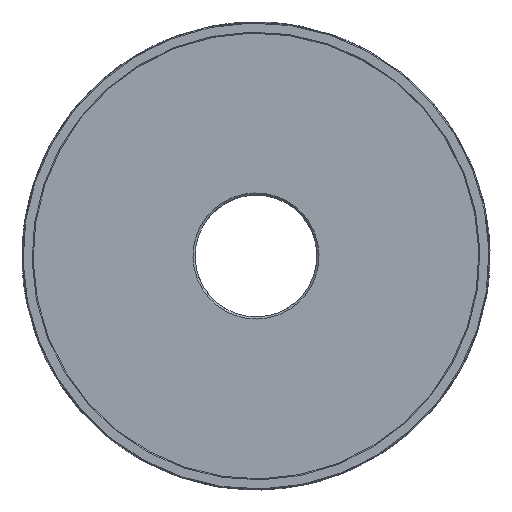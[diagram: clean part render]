
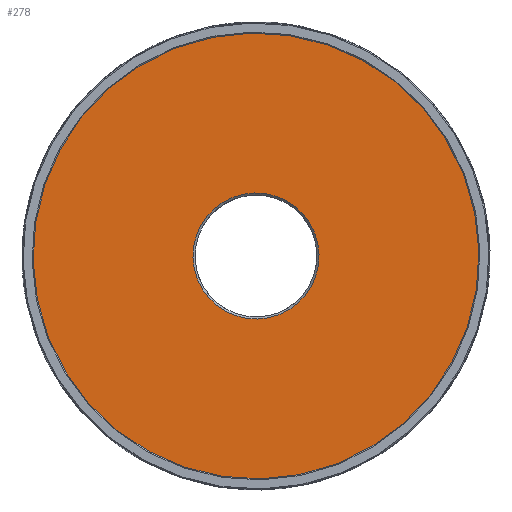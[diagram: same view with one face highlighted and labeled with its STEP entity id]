
A CAD part, left-side view. The second image highlights one B-rep face of the part: STEP entity #278.
In plain terms, the highlighted planar face has unit normal (-1, 0, 0).
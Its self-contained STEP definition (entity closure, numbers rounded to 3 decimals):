
#78=CARTESIAN_POINT('Vertex',(6.,20.334,-37.222)) ;
#81=CARTESIAN_POINT('Axis2P3D Location',(6.,0.,0.)) ;
#85=CARTESIAN_POINT('Vertex',(6.,-20.334,37.222)) ;
#234=CARTESIAN_POINT('Axis2P3D Location',(6.,0.,0.)) ;
#251=CARTESIAN_POINT('Axis2P3D Location',(6.,0.,42.414)) ;
#256=CARTESIAN_POINT('Axis2P3D Location',(6.,0.,0.)) ;
#260=CARTESIAN_POINT('Vertex',(6.,-71.914,131.637)) ;
#262=CARTESIAN_POINT('Vertex',(6.,71.914,-131.637)) ;
#265=CARTESIAN_POINT('Axis2P3D Location',(6.,0.,0.)) ;
#82=DIRECTION('Axis2P3D Direction',(-1.,0.,0.)) ;
#235=DIRECTION('Axis2P3D Direction',(-1.,0.,0.)) ;
#252=DIRECTION('Axis2P3D Direction',(1.,0.,0.)) ;
#253=DIRECTION('Axis2P3D XDirection',(0.,1.,0.)) ;
#257=DIRECTION('Axis2P3D Direction',(1.,0.,0.)) ;
#266=DIRECTION('Axis2P3D Direction',(1.,0.,0.)) ;
#83=AXIS2_PLACEMENT_3D('Circle Axis2P3D',#81,#82,$) ;
#236=AXIS2_PLACEMENT_3D('Circle Axis2P3D',#234,#235,$) ;
#254=AXIS2_PLACEMENT_3D('Plane Axis2P3D',#251,#252,#253) ;
#258=AXIS2_PLACEMENT_3D('Circle Axis2P3D',#256,#257,$) ;
#267=AXIS2_PLACEMENT_3D('Circle Axis2P3D',#265,#266,$) ;
#271=ORIENTED_EDGE('',*,*,#264,.F.) ;
#272=ORIENTED_EDGE('',*,*,#269,.F.) ;
#275=ORIENTED_EDGE('',*,*,#238,.T.) ;
#276=ORIENTED_EDGE('',*,*,#87,.T.) ;
#277=FACE_BOUND('',#274,.T.) ;
#278=ADVANCED_FACE('',(#273,#277),#255,.F.) ;
#84=CIRCLE('generated circle',#83,42.414) ;
#237=CIRCLE('generated circle',#236,42.414) ;
#259=CIRCLE('generated circle',#258,150.) ;
#268=CIRCLE('generated circle',#267,150.) ;
#87=EDGE_CURVE('',#86,#79,#84,.F.) ;
#238=EDGE_CURVE('',#79,#86,#237,.F.) ;
#264=EDGE_CURVE('',#261,#263,#259,.T.) ;
#269=EDGE_CURVE('',#263,#261,#268,.T.) ;
#270=EDGE_LOOP('',(#271,#272)) ;
#274=EDGE_LOOP('',(#275,#276)) ;
#273=FACE_OUTER_BOUND('',#270,.T.) ;
#255=PLANE('Plane',#254) ;
#79=VERTEX_POINT('',#78) ;
#86=VERTEX_POINT('',#85) ;
#261=VERTEX_POINT('',#260) ;
#263=VERTEX_POINT('',#262) ;
